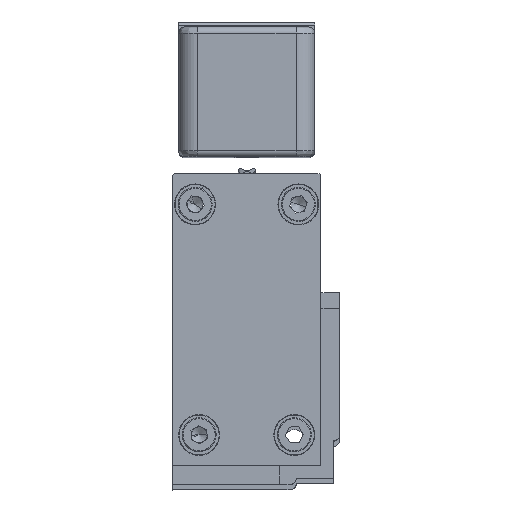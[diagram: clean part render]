
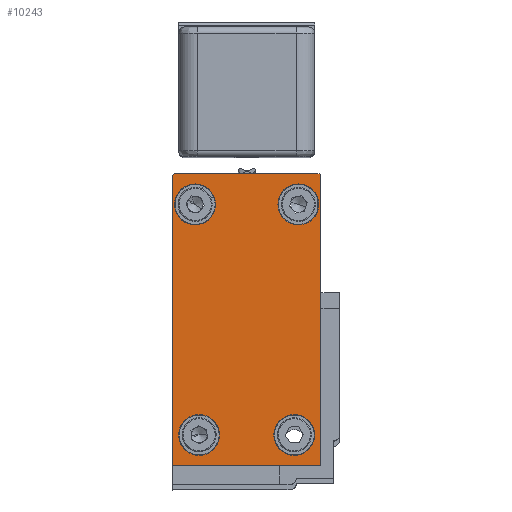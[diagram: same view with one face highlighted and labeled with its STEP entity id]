
A CAD part, top view. The second image highlights one B-rep face of the part: STEP entity #10243.
In plain terms, the highlighted planar face has unit normal (0, 0, 1).
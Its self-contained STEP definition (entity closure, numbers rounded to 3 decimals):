
#207 = LINE ( 'NONE', #4344, #26104 ) ;
#572 = VECTOR ( 'NONE', #3307, 1000. ) ;
#965 = VECTOR ( 'NONE', #24811, 1000. ) ;
#1659 = DIRECTION ( 'NONE',  ( 0., 0., -1. ) ) ;
#1686 = VECTOR ( 'NONE', #28975, 1000. ) ;
#1733 = AXIS2_PLACEMENT_3D ( 'NONE', #7377, #25487, #9959 ) ;
#1801 = CARTESIAN_POINT ( 'NONE',  ( 5.485, 25.871, 3185. ) ) ;
#2124 = VERTEX_POINT ( 'NONE', #31632 ) ;
#2146 = CARTESIAN_POINT ( 'NONE',  ( 5.637, 21.401, 3185. ) ) ;
#2772 = ORIENTED_EDGE ( 'NONE', *, *, #26547, .T. ) ;
#3217 = EDGE_CURVE ( 'NONE', #11014, #12007, #13710, .T. ) ;
#3307 = DIRECTION ( 'NONE',  ( 0., 1., 0. ) ) ;
#3475 = AXIS2_PLACEMENT_3D ( 'NONE', #4296, #22425, #6895 ) ;
#3511 = CARTESIAN_POINT ( 'NONE',  ( -0.967, 21.401, 3185. ) ) ;
#3514 = ORIENTED_EDGE ( 'NONE', *, *, #20274, .T. ) ;
#3515 = CARTESIAN_POINT ( 'NONE',  ( -18.014, -20.888, 3185. ) ) ;
#3661 = FACE_BOUND ( 'NONE', #15629, .T. ) ;
#4296 = CARTESIAN_POINT ( 'NONE',  ( -17.514, 25.871, 3185. ) ) ;
#4344 = CARTESIAN_POINT ( 'NONE',  ( 5.485, 26.371, 3185. ) ) ;
#4368 = DIRECTION ( 'NONE',  ( 0., 1., 0. ) ) ;
#4471 = FACE_BOUND ( 'NONE', #27763, .T. ) ;
#4655 = CARTESIAN_POINT ( 'NONE',  ( 2.335, 21.401, 3185. ) ) ;
#4841 = ORIENTED_EDGE ( 'NONE', *, *, #30036, .T. ) ;
#5264 = EDGE_LOOP ( 'NONE', ( #2772, #26911 ) ) ;
#6096 = DIRECTION ( 'NONE',  ( -1., 0., 0. ) ) ;
#6757 = VERTEX_POINT ( 'NONE', #19784 ) ;
#6895 = DIRECTION ( 'NONE',  ( 0., 1., 0. ) ) ;
#7256 = ORIENTED_EDGE ( 'NONE', *, *, #3217, .F. ) ;
#7270 = DIRECTION ( 'NONE',  ( -1., 0., 0. ) ) ;
#7274 = DIRECTION ( 'NONE',  ( 0., 0., -1. ) ) ;
#7377 = CARTESIAN_POINT ( 'NONE',  ( -14.365, 21.401, 3185. ) ) ;
#7791 = CARTESIAN_POINT ( 'NONE',  ( -13.714, -15.887, 3185. ) ) ;
#7923 = EDGE_CURVE ( 'NONE', #2124, #18719, #22753, .T. ) ;
#8082 = ORIENTED_EDGE ( 'NONE', *, *, #16187, .T. ) ;
#8569 = CIRCLE ( 'NONE', #21921, 3.302 ) ;
#9024 = ORIENTED_EDGE ( 'NONE', *, *, #31045, .T. ) ;
#9330 = AXIS2_PLACEMENT_3D ( 'NONE', #22780, #7274, #25391 ) ;
#9532 = CARTESIAN_POINT ( 'NONE',  ( 5.485, 26.371, 3185. ) ) ;
#9726 = DIRECTION ( 'NONE',  ( 0., 0., -1. ) ) ;
#9959 = DIRECTION ( 'NONE',  ( -1., 0., 0. ) ) ;
#9998 = ORIENTED_EDGE ( 'NONE', *, *, #19693, .T. ) ;
#10243 = ADVANCED_FACE ( 'NONE', ( #23514, #4471, #17451, #3661, #24317 ), #13704, .T. ) ;
#10363 = DIRECTION ( 'NONE',  ( -1., 0., 0. ) ) ;
#10894 = EDGE_CURVE ( 'NONE', #18719, #2124, #26654, .T. ) ;
#11014 = VERTEX_POINT ( 'NONE', #31039 ) ;
#11580 = ORIENTED_EDGE ( 'NONE', *, *, #16370, .T. ) ;
#11994 = DIRECTION ( 'NONE',  ( 1., 0., 0. ) ) ;
#12007 = VERTEX_POINT ( 'NONE', #29089 ) ;
#12407 = VERTEX_POINT ( 'NONE', #30708 ) ;
#12835 = ORIENTED_EDGE ( 'NONE', *, *, #7923, .T. ) ;
#13278 = CIRCLE ( 'NONE', #24048, 0.5 ) ;
#13327 = CARTESIAN_POINT ( 'NONE',  ( -11.063, 21.401, 3185. ) ) ;
#13411 = DIRECTION ( 'NONE',  ( 0., 0., -1. ) ) ;
#13505 = CARTESIAN_POINT ( 'NONE',  ( -17.017, -15.887, 3185. ) ) ;
#13704 = PLANE ( 'NONE',  #14709 ) ;
#13710 = CIRCLE ( 'NONE', #3475, 0.5 ) ;
#14145 = ORIENTED_EDGE ( 'NONE', *, *, #33274, .T. ) ;
#14322 = DIRECTION ( 'NONE',  ( 0., 0., -1. ) ) ;
#14325 = CIRCLE ( 'NONE', #23011, 3.302 ) ;
#14330 = LINE ( 'NONE', #21454, #572 ) ;
#14709 = AXIS2_PLACEMENT_3D ( 'NONE', #3515, #21651, #6096 ) ;
#15449 = LINE ( 'NONE', #26110, #1686 ) ;
#15629 = EDGE_LOOP ( 'NONE', ( #11580, #4841 ) ) ;
#16187 = EDGE_CURVE ( 'NONE', #28430, #23823, #26164, .T. ) ;
#16370 = EDGE_CURVE ( 'NONE', #17335, #6757, #25332, .T. ) ;
#16482 = CARTESIAN_POINT ( 'NONE',  ( -1.626, -15.887, 3185. ) ) ;
#16828 = AXIS2_PLACEMENT_3D ( 'NONE', #29835, #14322, #32453 ) ;
#17135 = CARTESIAN_POINT ( 'NONE',  ( 2.335, 21.401, 3185. ) ) ;
#17335 = VERTEX_POINT ( 'NONE', #13505 ) ;
#17451 = FACE_BOUND ( 'NONE', #5264, .T. ) ;
#17809 = EDGE_CURVE ( 'NONE', #23362, #31541, #20532, .T. ) ;
#18071 = CIRCLE ( 'NONE', #9330, 3.302 ) ;
#18719 = VERTEX_POINT ( 'NONE', #13327 ) ;
#19296 = VECTOR ( 'NONE', #11994, 1000. ) ;
#19496 = EDGE_CURVE ( 'NONE', #12407, #26417, #8569, .T. ) ;
#19512 = CARTESIAN_POINT ( 'NONE',  ( 5.984, 7.11, 3185. ) ) ;
#19693 = EDGE_CURVE ( 'NONE', #22253, #12007, #207, .T. ) ;
#19752 = DIRECTION ( 'NONE',  ( -1., 0., 0. ) ) ;
#19784 = CARTESIAN_POINT ( 'NONE',  ( -10.412, -15.887, 3185. ) ) ;
#19894 = DIRECTION ( 'NONE',  ( 0., 0., 1. ) ) ;
#20274 = EDGE_CURVE ( 'NONE', #22097, #22155, #14330, .T. ) ;
#20532 = CIRCLE ( 'NONE', #25955, 3.302 ) ;
#21454 = CARTESIAN_POINT ( 'NONE',  ( 5.984, 7.11, 3185. ) ) ;
#21651 = DIRECTION ( 'NONE',  ( 0., 0., 1. ) ) ;
#21880 = CARTESIAN_POINT ( 'NONE',  ( -18.014, -20.888, 3185. ) ) ;
#21921 = AXIS2_PLACEMENT_3D ( 'NONE', #28943, #13411, #31551 ) ;
#22053 = ORIENTED_EDGE ( 'NONE', *, *, #27311, .T. ) ;
#22097 = VERTEX_POINT ( 'NONE', #19512 ) ;
#22155 = VERTEX_POINT ( 'NONE', #24714 ) ;
#22237 = CARTESIAN_POINT ( 'NONE',  ( -18.014, 25.871, 3185. ) ) ;
#22253 = VERTEX_POINT ( 'NONE', #9532 ) ;
#22425 = DIRECTION ( 'NONE',  ( 0., 0., -1. ) ) ;
#22753 = CIRCLE ( 'NONE', #32227, 3.302 ) ;
#22777 = DIRECTION ( 'NONE',  ( 0., 0., -1. ) ) ;
#22780 = CARTESIAN_POINT ( 'NONE',  ( -13.714, -15.887, 3185. ) ) ;
#23011 = AXIS2_PLACEMENT_3D ( 'NONE', #17135, #1659, #19752 ) ;
#23362 = VERTEX_POINT ( 'NONE', #2146 ) ;
#23514 = FACE_BOUND ( 'NONE', #25885, .T. ) ;
#23823 = VERTEX_POINT ( 'NONE', #29842 ) ;
#24048 = AXIS2_PLACEMENT_3D ( 'NONE', #1801, #19894, #4368 ) ;
#24253 = ORIENTED_EDGE ( 'NONE', *, *, #29215, .T. ) ;
#24317 = FACE_OUTER_BOUND ( 'NONE', #26813, .T. ) ;
#24714 = CARTESIAN_POINT ( 'NONE',  ( 5.984, 25.871, 3185. ) ) ;
#24811 = DIRECTION ( 'NONE',  ( 0., -1., 0. ) ) ;
#25071 = DIRECTION ( 'NONE',  ( -1., 0., 0. ) ) ;
#25253 = CARTESIAN_POINT ( 'NONE',  ( -14.365, 21.401, 3185. ) ) ;
#25281 = ORIENTED_EDGE ( 'NONE', *, *, #10894, .T. ) ;
#25332 = CIRCLE ( 'NONE', #25708, 3.302 ) ;
#25391 = DIRECTION ( 'NONE',  ( -1., 0., 0. ) ) ;
#25487 = DIRECTION ( 'NONE',  ( 0., 0., -1. ) ) ;
#25708 = AXIS2_PLACEMENT_3D ( 'NONE', #7791, #25891, #10363 ) ;
#25885 = EDGE_LOOP ( 'NONE', ( #12835, #25281 ) ) ;
#25891 = DIRECTION ( 'NONE',  ( 0., 0., -1. ) ) ;
#25955 = AXIS2_PLACEMENT_3D ( 'NONE', #4655, #22777, #7270 ) ;
#26104 = VECTOR ( 'NONE', #25071, 1000. ) ;
#26110 = CARTESIAN_POINT ( 'NONE',  ( 5.984, -20.888, 3185. ) ) ;
#26140 = ORIENTED_EDGE ( 'NONE', *, *, #17809, .T. ) ;
#26164 = LINE ( 'NONE', #30095, #19296 ) ;
#26417 = VERTEX_POINT ( 'NONE', #16482 ) ;
#26547 = EDGE_CURVE ( 'NONE', #26417, #12407, #29794, .T. ) ;
#26654 = CIRCLE ( 'NONE', #1733, 3.302 ) ;
#26813 = EDGE_LOOP ( 'NONE', ( #14145, #3514, #24253, #9998, #7256, #22053, #8082 ) ) ;
#26855 = LINE ( 'NONE', #22237, #965 ) ;
#26911 = ORIENTED_EDGE ( 'NONE', *, *, #19496, .T. ) ;
#27311 = EDGE_CURVE ( 'NONE', #11014, #28430, #26855, .T. ) ;
#27763 = EDGE_LOOP ( 'NONE', ( #9024, #26140 ) ) ;
#27876 = DIRECTION ( 'NONE',  ( -1., 0., 0. ) ) ;
#28430 = VERTEX_POINT ( 'NONE', #21880 ) ;
#28943 = CARTESIAN_POINT ( 'NONE',  ( 1.676, -15.887, 3185. ) ) ;
#28975 = DIRECTION ( 'NONE',  ( 0., 1., 0. ) ) ;
#29089 = CARTESIAN_POINT ( 'NONE',  ( -17.514, 26.371, 3185. ) ) ;
#29215 = EDGE_CURVE ( 'NONE', #22155, #22253, #13278, .T. ) ;
#29794 = CIRCLE ( 'NONE', #16828, 3.302 ) ;
#29835 = CARTESIAN_POINT ( 'NONE',  ( 1.676, -15.887, 3185. ) ) ;
#29842 = CARTESIAN_POINT ( 'NONE',  ( 5.984, -20.888, 3185. ) ) ;
#30036 = EDGE_CURVE ( 'NONE', #6757, #17335, #18071, .T. ) ;
#30095 = CARTESIAN_POINT ( 'NONE',  ( -18.014, -20.888, 3185. ) ) ;
#30708 = CARTESIAN_POINT ( 'NONE',  ( 4.978, -15.887, 3185. ) ) ;
#31039 = CARTESIAN_POINT ( 'NONE',  ( -18.014, 25.871, 3185. ) ) ;
#31045 = EDGE_CURVE ( 'NONE', #31541, #23362, #14325, .T. ) ;
#31541 = VERTEX_POINT ( 'NONE', #3511 ) ;
#31551 = DIRECTION ( 'NONE',  ( -1., 0., 0. ) ) ;
#31632 = CARTESIAN_POINT ( 'NONE',  ( -17.667, 21.401, 3185. ) ) ;
#32227 = AXIS2_PLACEMENT_3D ( 'NONE', #25253, #9726, #27876 ) ;
#32453 = DIRECTION ( 'NONE',  ( -1., 0., 0. ) ) ;
#33274 = EDGE_CURVE ( 'NONE', #23823, #22097, #15449, .T. ) ;
